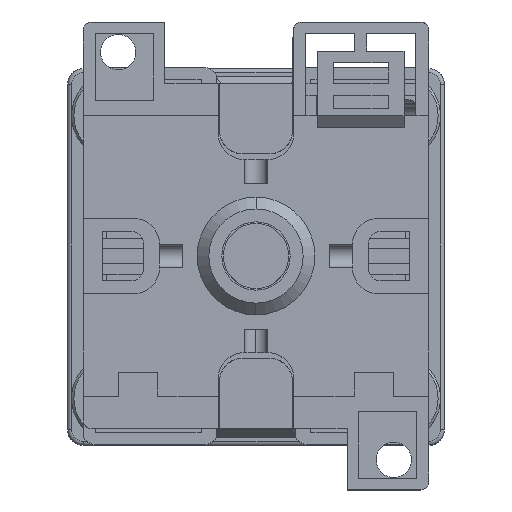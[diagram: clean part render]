
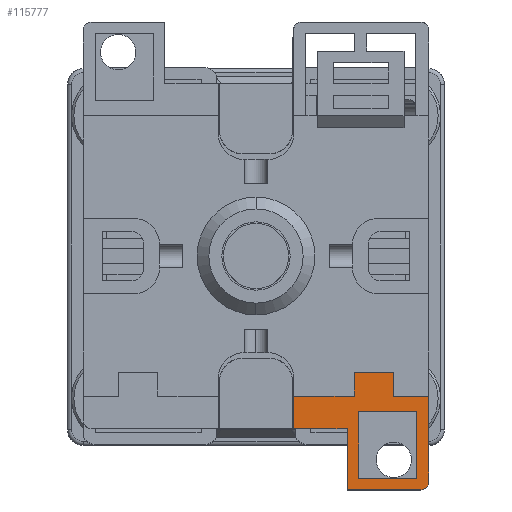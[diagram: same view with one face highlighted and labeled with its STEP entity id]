
A CAD part, top view. The second image highlights one B-rep face of the part: STEP entity #115777.
In plain terms, the highlighted planar face has unit normal (0, 0, 1).
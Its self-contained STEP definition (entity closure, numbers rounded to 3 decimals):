
#1113 = VECTOR ( 'NONE', #76148, 1000. ) ;
#1499 = EDGE_CURVE ( 'NONE', #130652, #187637, #52859, .T. ) ;
#1552 = DIRECTION ( 'NONE',  ( -1., 0., 0. ) ) ;
#3503 = LINE ( 'NONE', #151331, #1113 ) ;
#4024 = ORIENTED_EDGE ( 'NONE', *, *, #173472, .F. ) ;
#5586 = AXIS2_PLACEMENT_3D ( 'NONE', #49671, #124289, #137242 ) ;
#7443 = CARTESIAN_POINT ( 'NONE',  ( 17.961, -27.111, -144.082 ) ) ;
#7700 = EDGE_CURVE ( 'NONE', #181640, #129753, #102278, .T. ) ;
#8304 = CARTESIAN_POINT ( 'NONE',  ( 6.361, -5.111, -144.082 ) ) ;
#10391 = LINE ( 'NONE', #132470, #144851 ) ;
#12209 = VECTOR ( 'NONE', #15741, 1000. ) ;
#13797 = VECTOR ( 'NONE', #177043, 1000. ) ;
#15741 = DIRECTION ( 'NONE',  ( 0., -1., 0. ) ) ;
#16989 = EDGE_CURVE ( 'NONE', #101981, #180841, #3503, .T. ) ;
#18036 = ORIENTED_EDGE ( 'NONE', *, *, #82434, .F. ) ;
#18857 = LINE ( 'NONE', #59299, #72135 ) ;
#19048 = LINE ( 'NONE', #120688, #12209 ) ;
#20170 = VECTOR ( 'NONE', #24174, 1000. ) ;
#20576 = PLANE ( 'NONE',  #77590 ) ;
#22666 = LINE ( 'NONE', #57108, #166231 ) ;
#24174 = DIRECTION ( 'NONE',  ( 0., -1., 0. ) ) ;
#27769 = CARTESIAN_POINT ( 'NONE',  ( 19.461, -33.411, -144.082 ) ) ;
#28874 = EDGE_CURVE ( 'NONE', #49658, #143143, #141370, .T. ) ;
#29329 = ORIENTED_EDGE ( 'NONE', *, *, #138439, .F. ) ;
#32659 = CARTESIAN_POINT ( 'NONE',  ( 23.861, -19.961, -144.082 ) ) ;
#35163 = FACE_BOUND ( 'NONE', #101411, .T. ) ;
#36260 = LINE ( 'NONE', #110347, #20170 ) ;
#37631 = ORIENTED_EDGE ( 'NONE', *, *, #110346, .F. ) ;
#38283 = VECTOR ( 'NONE', #189889, 1000. ) ;
#39284 = CARTESIAN_POINT ( 'NONE',  ( 27.361, -34.911, -144.082 ) ) ;
#41737 = CARTESIAN_POINT ( 'NONE',  ( 26.861, -33.411, -144.082 ) ) ;
#42852 = DIRECTION ( 'NONE',  ( 1., 0., 0. ) ) ;
#44753 = CARTESIAN_POINT ( 'NONE',  ( 11.161, -27.111, -144.082 ) ) ;
#49658 = VERTEX_POINT ( 'NONE', #79021 ) ;
#49671 = CARTESIAN_POINT ( 'NONE',  ( 27.361, -33.911, -144.082 ) ) ;
#50635 = ORIENTED_EDGE ( 'NONE', *, *, #16989, .T. ) ;
#50895 = CARTESIAN_POINT ( 'NONE',  ( -15.639, -27.111, -144.082 ) ) ;
#52859 = CIRCLE ( 'NONE', #5586, 1. ) ;
#56865 = EDGE_CURVE ( 'NONE', #143143, #181640, #151589, .T. ) ;
#57108 = CARTESIAN_POINT ( 'NONE',  ( 26.861, -33.411, -144.082 ) ) ;
#59034 = EDGE_CURVE ( 'NONE', #124316, #97077, #133365, .T. ) ;
#59096 = CARTESIAN_POINT ( 'NONE',  ( 28.361, -33.911, -144.082 ) ) ;
#59299 = CARTESIAN_POINT ( 'NONE',  ( -51.715, -22.961, -144.082 ) ) ;
#60463 = CARTESIAN_POINT ( 'NONE',  ( 28.361, -34.911, -144.082 ) ) ;
#63086 = CARTESIAN_POINT ( 'NONE',  ( 18.861, -19.961, -144.082 ) ) ;
#63499 = VECTOR ( 'NONE', #165269, 1000. ) ;
#65095 = CARTESIAN_POINT ( 'NONE',  ( 23.861, -22.961, -144.082 ) ) ;
#68634 = CARTESIAN_POINT ( 'NONE',  ( 19.461, -24.961, -144.082 ) ) ;
#71003 = VERTEX_POINT ( 'NONE', #89607 ) ;
#71469 = CARTESIAN_POINT ( 'NONE',  ( 19.461, -33.411, -144.082 ) ) ;
#71635 = DIRECTION ( 'NONE',  ( 1., 0., 0. ) ) ;
#71865 = ORIENTED_EDGE ( 'NONE', *, *, #59034, .F. ) ;
#72135 = VECTOR ( 'NONE', #71635, 1000. ) ;
#73090 = ORIENTED_EDGE ( 'NONE', *, *, #1499, .T. ) ;
#75448 = LINE ( 'NONE', #86915, #177290 ) ;
#76148 = DIRECTION ( 'NONE',  ( 0., -1., 0. ) ) ;
#77590 = AXIS2_PLACEMENT_3D ( 'NONE', #8304, #126782, #171350 ) ;
#78597 = VECTOR ( 'NONE', #1552, 1000. ) ;
#79021 = CARTESIAN_POINT ( 'NONE',  ( 26.861, -24.961, -144.082 ) ) ;
#79400 = VECTOR ( 'NONE', #153327, 1000. ) ;
#82434 = EDGE_CURVE ( 'NONE', #94436, #116919, #18857, .T. ) ;
#84535 = CARTESIAN_POINT ( 'NONE',  ( 17.961, -34.911, -144.082 ) ) ;
#86605 = CARTESIAN_POINT ( 'NONE',  ( 26.861, -33.411, -144.082 ) ) ;
#86915 = CARTESIAN_POINT ( 'NONE',  ( -51.715, -22.961, -144.082 ) ) ;
#88872 = CARTESIAN_POINT ( 'NONE',  ( 26.861, -24.961, -144.082 ) ) ;
#89607 = CARTESIAN_POINT ( 'NONE',  ( 11.161, -22.961, -144.082 ) ) ;
#91146 = VERTEX_POINT ( 'NONE', #44753 ) ;
#92220 = ORIENTED_EDGE ( 'NONE', *, *, #178363, .T. ) ;
#93387 = CARTESIAN_POINT ( 'NONE',  ( 23.861, -19.961, -144.082 ) ) ;
#94436 = VERTEX_POINT ( 'NONE', #65095 ) ;
#97077 = VERTEX_POINT ( 'NONE', #7443 ) ;
#98815 = DIRECTION ( 'NONE',  ( 1., 0., 0. ) ) ;
#99296 = ORIENTED_EDGE ( 'NONE', *, *, #28874, .F. ) ;
#99570 = EDGE_CURVE ( 'NONE', #130652, #124316, #173440, .T. ) ;
#101411 = EDGE_LOOP ( 'NONE', ( #99296, #29329, #177595, #129125 ) ) ;
#101981 = VERTEX_POINT ( 'NONE', #63086 ) ;
#102278 = LINE ( 'NONE', #41737, #148570 ) ;
#104740 = FACE_OUTER_BOUND ( 'NONE', #166074, .T. ) ;
#105803 = DIRECTION ( 'NONE',  ( 0., -1., 0. ) ) ;
#107451 = VECTOR ( 'NONE', #131451, 1000. ) ;
#110346 = EDGE_CURVE ( 'NONE', #135058, #94436, #19048, .T. ) ;
#110347 = CARTESIAN_POINT ( 'NONE',  ( 11.161, 24.689, -144.082 ) ) ;
#114610 = EDGE_CURVE ( 'NONE', #116919, #187637, #10391, .T. ) ;
#115777 = ADVANCED_FACE ( 'NONE', ( #35163, #104740 ), #20576, .F. ) ;
#116914 = CARTESIAN_POINT ( 'NONE',  ( 17.961, -27.111, -144.082 ) ) ;
#116919 = VERTEX_POINT ( 'NONE', #189441 ) ;
#120688 = CARTESIAN_POINT ( 'NONE',  ( 23.861, -19.961, -144.082 ) ) ;
#123411 = EDGE_CURVE ( 'NONE', #71003, #180841, #75448, .T. ) ;
#124289 = DIRECTION ( 'NONE',  ( 0., 0., 1. ) ) ;
#124316 = VERTEX_POINT ( 'NONE', #84535 ) ;
#125806 = LINE ( 'NONE', #50895, #79400 ) ;
#126782 = DIRECTION ( 'NONE',  ( 0., 0., -1. ) ) ;
#129125 = ORIENTED_EDGE ( 'NONE', *, *, #56865, .F. ) ;
#129753 = VERTEX_POINT ( 'NONE', #86605 ) ;
#130652 = VERTEX_POINT ( 'NONE', #39284 ) ;
#131451 = DIRECTION ( 'NONE',  ( 0., -1., 0. ) ) ;
#132470 = CARTESIAN_POINT ( 'NONE',  ( 28.361, -34.911, -144.082 ) ) ;
#133365 = LINE ( 'NONE', #116914, #38283 ) ;
#135058 = VERTEX_POINT ( 'NONE', #32659 ) ;
#137242 = DIRECTION ( 'NONE',  ( 1., 0., 0. ) ) ;
#138439 = EDGE_CURVE ( 'NONE', #129753, #49658, #22666, .T. ) ;
#138663 = ORIENTED_EDGE ( 'NONE', *, *, #99570, .F. ) ;
#139949 = LINE ( 'NONE', #93387, #63499 ) ;
#141370 = LINE ( 'NONE', #88872, #78597 ) ;
#143143 = VERTEX_POINT ( 'NONE', #68634 ) ;
#144851 = VECTOR ( 'NONE', #105803, 1000. ) ;
#147873 = DIRECTION ( 'NONE',  ( 0., 1., 0. ) ) ;
#148570 = VECTOR ( 'NONE', #98815, 1000. ) ;
#149016 = CARTESIAN_POINT ( 'NONE',  ( 18.861, -22.961, -144.082 ) ) ;
#151331 = CARTESIAN_POINT ( 'NONE',  ( 18.861, -19.961, -144.082 ) ) ;
#151589 = LINE ( 'NONE', #27769, #107451 ) ;
#153327 = DIRECTION ( 'NONE',  ( -1., 0., 0. ) ) ;
#165269 = DIRECTION ( 'NONE',  ( 1., 0., 0. ) ) ;
#166074 = EDGE_LOOP ( 'NONE', ( #138663, #73090, #171606, #18036, #37631, #4024, #50635, #172857, #92220, #178977, #71865 ) ) ;
#166231 = VECTOR ( 'NONE', #147873, 1000. ) ;
#171350 = DIRECTION ( 'NONE',  ( 1., 0., 0. ) ) ;
#171606 = ORIENTED_EDGE ( 'NONE', *, *, #114610, .F. ) ;
#172857 = ORIENTED_EDGE ( 'NONE', *, *, #123411, .F. ) ;
#173440 = LINE ( 'NONE', #60463, #13797 ) ;
#173472 = EDGE_CURVE ( 'NONE', #101981, #135058, #139949, .T. ) ;
#177043 = DIRECTION ( 'NONE',  ( -1., 0., 0. ) ) ;
#177290 = VECTOR ( 'NONE', #42852, 1000. ) ;
#177595 = ORIENTED_EDGE ( 'NONE', *, *, #7700, .F. ) ;
#178363 = EDGE_CURVE ( 'NONE', #71003, #91146, #36260, .T. ) ;
#178977 = ORIENTED_EDGE ( 'NONE', *, *, #179607, .F. ) ;
#179607 = EDGE_CURVE ( 'NONE', #97077, #91146, #125806, .T. ) ;
#180841 = VERTEX_POINT ( 'NONE', #149016 ) ;
#181640 = VERTEX_POINT ( 'NONE', #71469 ) ;
#187637 = VERTEX_POINT ( 'NONE', #59096 ) ;
#189441 = CARTESIAN_POINT ( 'NONE',  ( 28.361, -22.961, -144.082 ) ) ;
#189889 = DIRECTION ( 'NONE',  ( 0., 1., 0. ) ) ;
